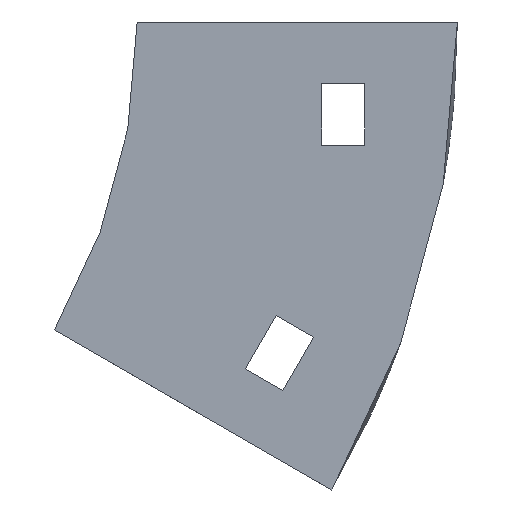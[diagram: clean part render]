
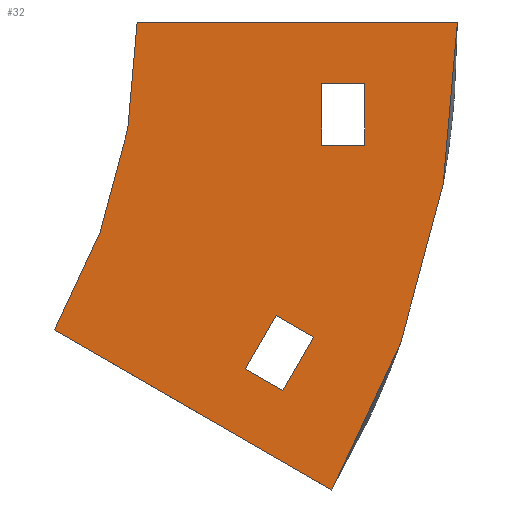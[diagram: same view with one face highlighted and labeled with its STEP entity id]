
A CAD part, left-side view. The second image highlights one B-rep face of the part: STEP entity #32.
In plain terms, the highlighted planar face has unit normal (-1, 0, 0).
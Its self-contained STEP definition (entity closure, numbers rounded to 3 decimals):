
#4 = EDGE_CURVE ( 'NONE', #668, #457, #966, .T. ) ;
#7 = VERTEX_POINT ( 'NONE', #697 ) ;
#12 = ORIENTED_EDGE ( 'NONE', *, *, #951, .F. ) ;
#26 = AXIS2_PLACEMENT_3D ( 'NONE', #424, #515, #1063 ) ;
#32 = ADVANCED_FACE ( 'NONE', ( #854, #1120, #859 ), #880, .F. ) ;
#38 = VECTOR ( 'NONE', #416, 1000. ) ;
#48 = VERTEX_POINT ( 'NONE', #257 ) ;
#55 = VERTEX_POINT ( 'NONE', #974 ) ;
#64 = LINE ( 'NONE', #702, #1125 ) ;
#66 = DIRECTION ( 'NONE',  ( 0., -1., 0. ) ) ;
#69 = VERTEX_POINT ( 'NONE', #1037 ) ;
#77 = CARTESIAN_POINT ( 'NONE',  ( -302., -30., -20. ) ) ;
#109 = VERTEX_POINT ( 'NONE', #631 ) ;
#112 = CARTESIAN_POINT ( 'NONE',  ( -302., -22.583, -47.679 ) ) ;
#114 = VECTOR ( 'NONE', #326, 1000. ) ;
#136 = CARTESIAN_POINT ( 'NONE',  ( -302., -31.636, -76. ) ) ;
#142 = EDGE_CURVE ( 'NONE', #69, #48, #809, .T. ) ;
#160 = EDGE_CURVE ( 'NONE', #790, #109, #1082, .T. ) ;
#162 = CARTESIAN_POINT ( 'NONE',  ( -302., 100., 0. ) ) ;
#167 = DIRECTION ( 'NONE',  ( 0., -0.866, -0.5 ) ) ;
#169 = CARTESIAN_POINT ( 'NONE',  ( -302., -30., -10. ) ) ;
#177 = CARTESIAN_POINT ( 'NONE',  ( -302., -17.583, -56.34 ) ) ;
#199 = ORIENTED_EDGE ( 'NONE', *, *, #502, .F. ) ;
#220 = CARTESIAN_POINT ( 'NONE',  ( -302., -23.645, -59.84 ) ) ;
#233 = CIRCLE ( 'NONE', #886, 100. ) ;
#257 = CARTESIAN_POINT ( 'NONE',  ( -302., -30., -10. ) ) ;
#263 = EDGE_CURVE ( 'NONE', #837, #1109, #64, .T. ) ;
#264 = DIRECTION ( 'NONE',  ( 0., 1., 0. ) ) ;
#270 = ORIENTED_EDGE ( 'NONE', *, *, #759, .T. ) ;
#282 = EDGE_LOOP ( 'NONE', ( #1101, #270, #922, #1005 ) ) ;
#317 = EDGE_LOOP ( 'NONE', ( #751, #1096, #961, #338 ) ) ;
#326 = DIRECTION ( 'NONE',  ( 0., -0.5, 0.866 ) ) ;
#338 = ORIENTED_EDGE ( 'NONE', *, *, #1032, .F. ) ;
#342 = VECTOR ( 'NONE', #460, 1000. ) ;
#379 = EDGE_CURVE ( 'NONE', #1010, #837, #1073, .T. ) ;
#386 = CIRCLE ( 'NONE', #664, 152. ) ;
#416 = DIRECTION ( 'NONE',  ( 0., -1., 0. ) ) ;
#424 = CARTESIAN_POINT ( 'NONE',  ( -302., 100., 0. ) ) ;
#431 = CARTESIAN_POINT ( 'NONE',  ( -302., -37., -20. ) ) ;
#442 = DIRECTION ( 'NONE',  ( 0., 0., -1. ) ) ;
#454 = CARTESIAN_POINT ( 'NONE',  ( -302., 13.397, -50. ) ) ;
#457 = VERTEX_POINT ( 'NONE', #431 ) ;
#460 = DIRECTION ( 'NONE',  ( 0., 0., 1. ) ) ;
#502 = EDGE_CURVE ( 'NONE', #7, #55, #528, .T. ) ;
#504 = CARTESIAN_POINT ( 'NONE',  ( -302., -17.583, -56.34 ) ) ;
#511 = DIRECTION ( 'NONE',  ( 0., 0., -1. ) ) ;
#515 = DIRECTION ( 'NONE',  ( 1., 0., 0. ) ) ;
#528 = LINE ( 'NONE', #611, #647 ) ;
#548 = LINE ( 'NONE', #77, #741 ) ;
#566 = CARTESIAN_POINT ( 'NONE',  ( -302., -37., -10. ) ) ;
#575 = EDGE_CURVE ( 'NONE', #457, #69, #548, .T. ) ;
#611 = CARTESIAN_POINT ( 'NONE',  ( -302., -52., 0. ) ) ;
#618 = CARTESIAN_POINT ( 'NONE',  ( -302., -37., -10. ) ) ;
#631 = CARTESIAN_POINT ( 'NONE',  ( -302., 13.397, -50. ) ) ;
#633 = VECTOR ( 'NONE', #1000, 1000. ) ;
#647 = VECTOR ( 'NONE', #66, 1000. ) ;
#654 = EDGE_CURVE ( 'NONE', #840, #1010, #666, .T. ) ;
#664 = AXIS2_PLACEMENT_3D ( 'NONE', #923, #841, #511 ) ;
#666 = LINE ( 'NONE', #835, #984 ) ;
#668 = VERTEX_POINT ( 'NONE', #566 ) ;
#669 = VECTOR ( 'NONE', #893, 1000. ) ;
#696 = CARTESIAN_POINT ( 'NONE',  ( -302., -23.645, -59.84 ) ) ;
#697 = CARTESIAN_POINT ( 'NONE',  ( -302., 0., 0. ) ) ;
#702 = CARTESIAN_POINT ( 'NONE',  ( -302., -17.583, -56.34 ) ) ;
#713 = EDGE_LOOP ( 'NONE', ( #12, #1147, #1076, #199 ) ) ;
#741 = VECTOR ( 'NONE', #264, 1000. ) ;
#751 = ORIENTED_EDGE ( 'NONE', *, *, #263, .F. ) ;
#752 = LINE ( 'NONE', #220, #114 ) ;
#759 = EDGE_CURVE ( 'NONE', #48, #668, #1056, .T. ) ;
#790 = VERTEX_POINT ( 'NONE', #136 ) ;
#809 = LINE ( 'NONE', #169, #342 ) ;
#817 = EDGE_CURVE ( 'NONE', #55, #790, #386, .T. ) ;
#835 = CARTESIAN_POINT ( 'NONE',  ( -302., -22.583, -47.679 ) ) ;
#837 = VERTEX_POINT ( 'NONE', #504 ) ;
#840 = VERTEX_POINT ( 'NONE', #1024 ) ;
#841 = DIRECTION ( 'NONE',  ( 1., 0., 0. ) ) ;
#854 = FACE_OUTER_BOUND ( 'NONE', #713, .T. ) ;
#859 = FACE_BOUND ( 'NONE', #317, .T. ) ;
#880 = PLANE ( 'NONE',  #26 ) ;
#886 = AXIS2_PLACEMENT_3D ( 'NONE', #162, #1148, #442 ) ;
#893 = DIRECTION ( 'NONE',  ( 0., 0.5, -0.866 ) ) ;
#922 = ORIENTED_EDGE ( 'NONE', *, *, #4, .T. ) ;
#923 = CARTESIAN_POINT ( 'NONE',  ( -302., 100., 0. ) ) ;
#951 = EDGE_CURVE ( 'NONE', #109, #7, #233, .T. ) ;
#956 = DIRECTION ( 'NONE',  ( 0., 0., -1. ) ) ;
#961 = ORIENTED_EDGE ( 'NONE', *, *, #654, .F. ) ;
#966 = LINE ( 'NONE', #618, #1151 ) ;
#974 = CARTESIAN_POINT ( 'NONE',  ( -302., -52., 0. ) ) ;
#984 = VECTOR ( 'NONE', #1025, 1000. ) ;
#1000 = DIRECTION ( 'NONE',  ( 0., 0.866, 0.5 ) ) ;
#1005 = ORIENTED_EDGE ( 'NONE', *, *, #575, .T. ) ;
#1010 = VERTEX_POINT ( 'NONE', #112 ) ;
#1024 = CARTESIAN_POINT ( 'NONE',  ( -302., -28.645, -51.179 ) ) ;
#1025 = DIRECTION ( 'NONE',  ( 0., 0.866, 0.5 ) ) ;
#1032 = EDGE_CURVE ( 'NONE', #1109, #840, #752, .T. ) ;
#1037 = CARTESIAN_POINT ( 'NONE',  ( -302., -30., -20. ) ) ;
#1056 = LINE ( 'NONE', #1129, #38 ) ;
#1063 = DIRECTION ( 'NONE',  ( 0., 0., -1. ) ) ;
#1073 = LINE ( 'NONE', #177, #669 ) ;
#1076 = ORIENTED_EDGE ( 'NONE', *, *, #817, .F. ) ;
#1082 = LINE ( 'NONE', #454, #633 ) ;
#1096 = ORIENTED_EDGE ( 'NONE', *, *, #379, .F. ) ;
#1101 = ORIENTED_EDGE ( 'NONE', *, *, #142, .T. ) ;
#1109 = VERTEX_POINT ( 'NONE', #696 ) ;
#1120 = FACE_BOUND ( 'NONE', #282, .T. ) ;
#1125 = VECTOR ( 'NONE', #167, 1000. ) ;
#1129 = CARTESIAN_POINT ( 'NONE',  ( -302., -30., -10. ) ) ;
#1147 = ORIENTED_EDGE ( 'NONE', *, *, #160, .F. ) ;
#1148 = DIRECTION ( 'NONE',  ( -1., 0., 0. ) ) ;
#1151 = VECTOR ( 'NONE', #956, 1000. ) ;
